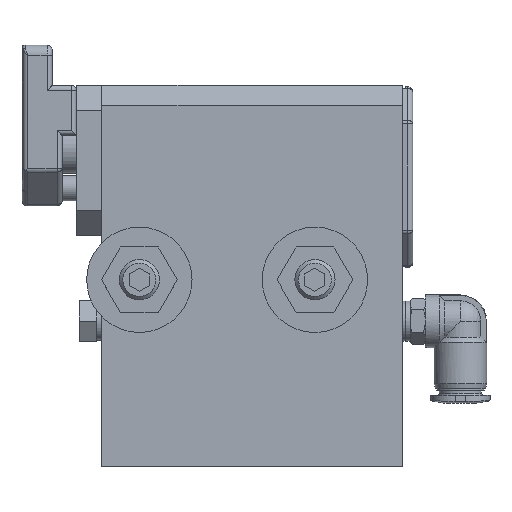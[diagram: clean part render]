
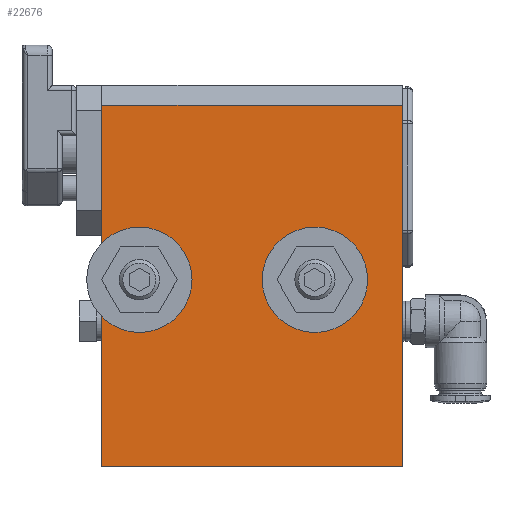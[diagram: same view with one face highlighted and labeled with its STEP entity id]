
A CAD part, top view. The second image highlights one B-rep face of the part: STEP entity #22676.
In plain terms, the highlighted planar face has unit normal (0, 0, 1).
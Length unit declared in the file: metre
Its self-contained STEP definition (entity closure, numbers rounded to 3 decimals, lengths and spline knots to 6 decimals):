
#884 = EDGE_CURVE ( 'NONE', #22794, #22794, #1161, .T. ) ;
#1161 = CIRCLE ( 'NONE', #1880, 0.0051 ) ;
#1880 = AXIS2_PLACEMENT_3D ( 'NONE', #4102, #19930, #6398 ) ;
#2646 = CARTESIAN_POINT ( 'NONE',  ( 0.0159, 0.0388, 0.04 ) ) ;
#3267 = DIRECTION ( 'NONE',  ( 1., 0., 0. ) ) ;
#3336 = VERTEX_POINT ( 'NONE', #18468 ) ;
#3748 = DIRECTION ( 'NONE',  ( 0., 1., 0. ) ) ;
#3772 = CARTESIAN_POINT ( 'NONE',  ( 0.0159, 0.0348, 0.04 ) ) ;
#3814 = VECTOR ( 'NONE', #3748, 1. ) ;
#4102 = CARTESIAN_POINT ( 'NONE',  ( 0.0584, 0., 0.04 ) ) ;
#4344 = AXIS2_PLACEMENT_3D ( 'NONE', #2646, #7207, #23003 ) ;
#4870 = EDGE_CURVE ( 'NONE', #14600, #17460, #8450, .T. ) ;
#5075 = EDGE_CURVE ( 'NONE', #17460, #12402, #14764, .T. ) ;
#5218 = LINE ( 'NONE', #16479, #17256 ) ;
#5306 = EDGE_CURVE ( 'NONE', #12402, #22880, #5218, .T. ) ;
#6272 = EDGE_LOOP ( 'NONE', ( #10066 ) ) ;
#6398 = DIRECTION ( 'NONE',  ( 1., 0., 0. ) ) ;
#6752 = CARTESIAN_POINT ( 'NONE',  ( 0.0159, -0.0372, 0.04 ) ) ;
#7190 = EDGE_CURVE ( 'NONE', #3336, #3336, #7930, .T. ) ;
#7207 = DIRECTION ( 'NONE',  ( 0., 0., -1. ) ) ;
#7930 = CIRCLE ( 'NONE', #25612, 0.0051 ) ;
#8443 = ORIENTED_EDGE ( 'NONE', *, *, #884, .F. ) ;
#8450 = LINE ( 'NONE', #3772, #14429 ) ;
#9279 = CARTESIAN_POINT ( 'NONE',  ( 0.0635, 0., 0.04 ) ) ;
#9534 = EDGE_LOOP ( 'NONE', ( #8443 ) ) ;
#10011 = CARTESIAN_POINT ( 'NONE',  ( 0.0759, 0.0348, 0.04 ) ) ;
#10066 = ORIENTED_EDGE ( 'NONE', *, *, #7190, .F. ) ;
#11554 = ORIENTED_EDGE ( 'NONE', *, *, #15198, .T. ) ;
#12402 = VERTEX_POINT ( 'NONE', #18997 ) ;
#12672 = DIRECTION ( 'NONE',  ( 0., 0., 1. ) ) ;
#13994 = EDGE_LOOP ( 'NONE', ( #11554, #18001, #20033, #20294 ) ) ;
#14318 = CARTESIAN_POINT ( 'NONE',  ( 0.0159, 0.0348, 0.04 ) ) ;
#14429 = VECTOR ( 'NONE', #19600, 1. ) ;
#14600 = VERTEX_POINT ( 'NONE', #10011 ) ;
#14764 = LINE ( 'NONE', #6752, #26095 ) ;
#15198 = EDGE_CURVE ( 'NONE', #22880, #14600, #21858, .T. ) ;
#16479 = CARTESIAN_POINT ( 'NONE',  ( 0.0159, -0.0372, 0.04 ) ) ;
#16683 = FACE_OUTER_BOUND ( 'NONE', #13994, .T. ) ;
#16955 = CARTESIAN_POINT ( 'NONE',  ( 0.0759, -0.0372, 0.04 ) ) ;
#17256 = VECTOR ( 'NONE', #3267, 1. ) ;
#17460 = VERTEX_POINT ( 'NONE', #14318 ) ;
#18001 = ORIENTED_EDGE ( 'NONE', *, *, #4870, .T. ) ;
#18459 = PLANE ( 'NONE',  #4344 ) ;
#18468 = CARTESIAN_POINT ( 'NONE',  ( 0.0285, 0., 0.04 ) ) ;
#18997 = CARTESIAN_POINT ( 'NONE',  ( 0.0159, -0.0372, 0.04 ) ) ;
#19600 = DIRECTION ( 'NONE',  ( -1., 0., 0. ) ) ;
#19930 = DIRECTION ( 'NONE',  ( 0., 0., 1. ) ) ;
#20033 = ORIENTED_EDGE ( 'NONE', *, *, #5075, .T. ) ;
#20284 = DIRECTION ( 'NONE',  ( 0., -1., 0. ) ) ;
#20294 = ORIENTED_EDGE ( 'NONE', *, *, #5306, .T. ) ;
#21845 = CARTESIAN_POINT ( 'NONE',  ( 0.0759, -0.0372, 0.04 ) ) ;
#21858 = LINE ( 'NONE', #21845, #3814 ) ;
#22676 = ADVANCED_FACE ( 'NONE', ( #16683, #24840, #28696 ), #18459, .F. ) ;
#22794 = VERTEX_POINT ( 'NONE', #9279 ) ;
#22880 = VERTEX_POINT ( 'NONE', #16955 ) ;
#23003 = DIRECTION ( 'NONE',  ( -1., 0., 0. ) ) ;
#24840 = FACE_BOUND ( 'NONE', #9534, .T. ) ;
#25612 = AXIS2_PLACEMENT_3D ( 'NONE', #26233, #12672, #28487 ) ;
#26095 = VECTOR ( 'NONE', #20284, 1. ) ;
#26233 = CARTESIAN_POINT ( 'NONE',  ( 0.0234, 0., 0.04 ) ) ;
#28487 = DIRECTION ( 'NONE',  ( 1., 0., 0. ) ) ;
#28696 = FACE_BOUND ( 'NONE', #6272, .T. ) ;
